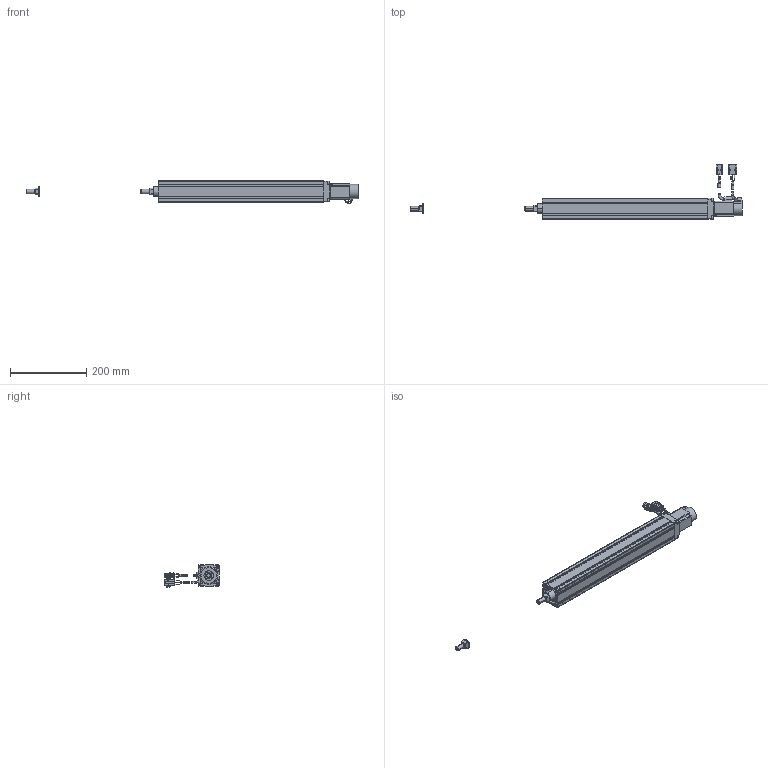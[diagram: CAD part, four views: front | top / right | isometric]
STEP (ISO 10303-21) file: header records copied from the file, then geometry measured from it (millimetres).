
FILE_DESCRIPTION((''),'2;1');
FILE_NAME('BET5E-ST-C_N-30_IGS_PRT','2017-06-18T',(' '),(''),'PRO/ENGINEER BY PARAMETRIC TECHNOLOGY CORPORATION, 2015030','PRO/ENGINEER BY PARAMETRIC TECHNOLOGY CORPORATION, 2015030','');
FILE_SCHEMA(('CONFIG_CONTROL_DESIGN'));
Length unit declared in the file: millimetre
Products named in the file (1): BET5E-ST-C_N-30_IGS_PRT
Bounding box: 868.5 x 142.55 x 57.56 mm (x, y, z)
Volume: 1059649.7 mm3; surface area: 294060.6 mm2
Topology: 7 solids, 33 shells, 893 faces, 2310 edges, 1492 vertices
Faces by surface type: plane 556, cylinder 245, torus 66, cone 22, sphere 4
Entity records: 27335 total; most frequent: CARTESIAN_POINT 4941, DIRECTION 4706, ORIENTED_EDGE 4548, EDGE_CURVE 2302, VECTOR 1616, LINE 1616, AXIS2_PLACEMENT_3D 1545, VERTEX_POINT 1492
